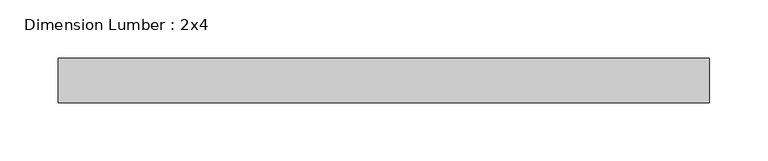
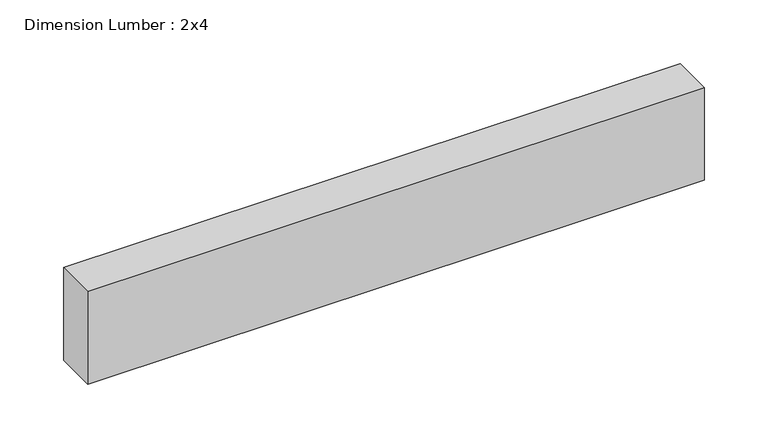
"""IFC4 building model written with IfcOpenShell, lengths in millimetres: beam geometry, Dimension Lumber : 2x4."""

from ifc_helpers import new_model, si_unit, frame, origin, place, context, project, spatial, polyline, outline, extrude, source, transform, mapped, element, save


def dimension_lumber_2x4_25ed4124(model_context):
    return source(origin(), model_context, "Body", "SweptSolid", [
        extrude(outline(polyline([(279.4995144, 19.05), (279.4995144, -19.05), (-279.4995144, -19.05), (-279.4995144, 19.05), (279.4995144, 19.05)])), frame((0.0, 0.0, -44.45), z_axis=(0.0, 0.0, 1.0), x_axis=(1.0, 0.0, 0.0)), (0.0, 0.0, 1.0), 88.9),
    ])


if __name__ == "__main__":
    model = new_model("IFC4")
    model_context = context("Model", 3, world=origin())
    ifc_project = project(units=[si_unit("LENGTHUNIT", "METRE", prefix="MILLI")], contexts=[model_context])
    site = spatial("IfcSite", under=ifc_project)
    building = spatial("IfcBuilding", under=site)
    placement = place(None, origin())
    dimension_lumber_2x4_shape = dimension_lumber_2x4_25ed4124(model_context)
    element("IfcBeam", 1, ObjectType="Dimension Lumber : 2x4", at=placement, inside=building, context=model_context, shape_type="MappedRepresentation", body=[
        mapped(dimension_lumber_2x4_shape, transform((0.0, 0.0, 0.0), x_axis=(1.0, 0.0, 0.0), y_axis=(0.0, 1.0, 0.0), z_axis=(0.0, 0.0, 1.0))),
    ])
    save(model, "model.ifc")
